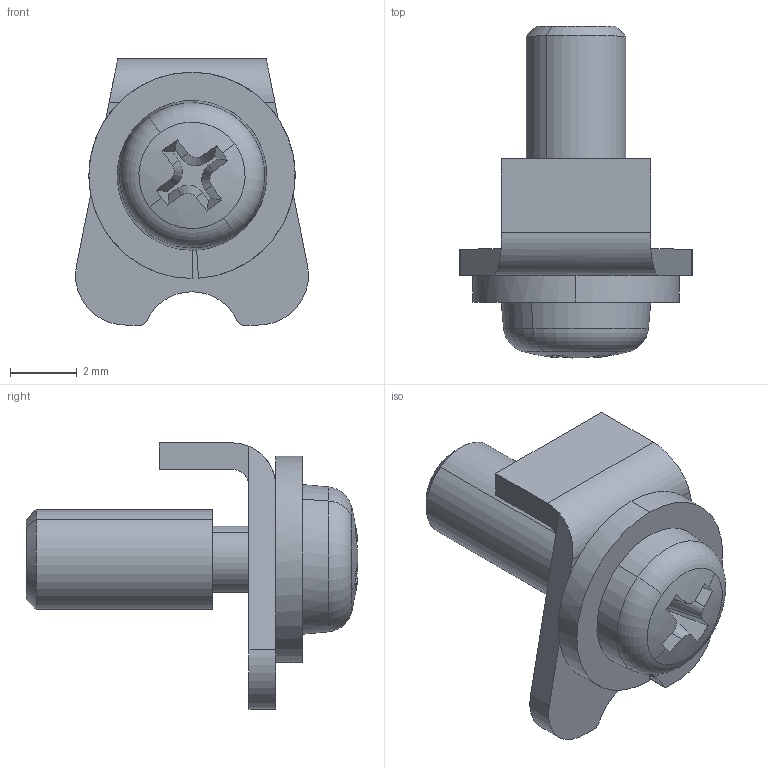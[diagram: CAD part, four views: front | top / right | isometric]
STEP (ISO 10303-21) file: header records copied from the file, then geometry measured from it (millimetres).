
FILE_DESCRIPTION (( 'STEP AP214' ), '1' );
FILE_NAME ('SFN-1.STEP', '2020-12-18T00:56:36', ( '' ), ( '' ), 'SwSTEP 2.0', 'SolidWorks 2019', '' );
FILE_SCHEMA (( 'AUTOMOTIVE_DESIGN' ));
Length unit declared in the file: millimetre
Products named in the file (1): SFN-1
Bounding box: 7 x 9.98 x 8 mm (x, y, z)
Volume: 124.2 mm3; surface area: 284.4 mm2
Topology: 1 solids, 1 shells, 64 faces, 166 edges, 106 vertices
Faces by surface type: plane 35, cylinder 17, cone 8, torus 2, sphere 2
Entity records: 2022 total; most frequent: DIRECTION 364, CARTESIAN_POINT 363, ORIENTED_EDGE 332, EDGE_CURVE 166, AXIS2_PLACEMENT_3D 139, VERTEX_POINT 106, VECTOR 86, LINE 86
